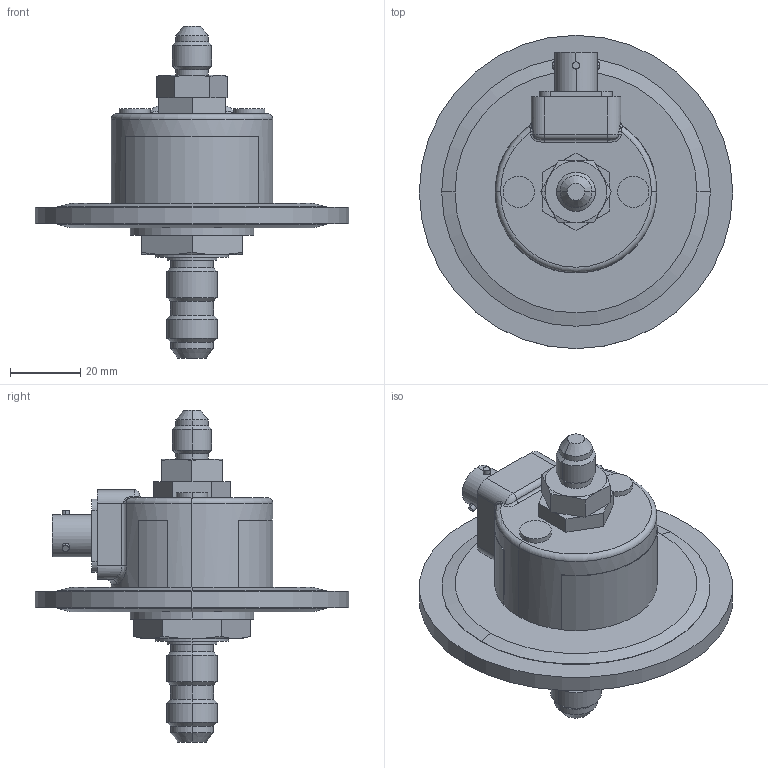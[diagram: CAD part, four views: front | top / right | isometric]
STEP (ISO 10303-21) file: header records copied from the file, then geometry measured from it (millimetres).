
FILE_DESCRIPTION (( 'STEP AP214' ), '1' );
FILE_NAME ('DA79S-TYPE.STEP', '2008-01-31T15:29:19', ( 'Authorized User' ), ( 'Precision Sensors' ), 'SwSTEP 2.0', 'SolidWorks 2006303', '' );
FILE_SCHEMA (( 'AUTOMOTIVE_DESIGN' ));
Length unit declared in the file: inch
Products named in the file (1): DA79S-TYPE
Bounding box: 88.9 x 88.9 x 94.21 mm (x, y, z)
Volume: 99665.1 mm3; surface area: 22160.6 mm2
Topology: 1 solids, 1 shells, 178 faces, 400 edges, 239 vertices
Faces by surface type: plane 68, cylinder 61, cone 33, torus 8, bspline 8
Entity records: 5494 total; most frequent: CARTESIAN_POINT 1526, DIRECTION 847, ORIENTED_EDGE 796, EDGE_CURVE 398, AXIS2_PLACEMENT_3D 326, VERTEX_POINT 239, EDGE_LOOP 195, VECTOR 195
